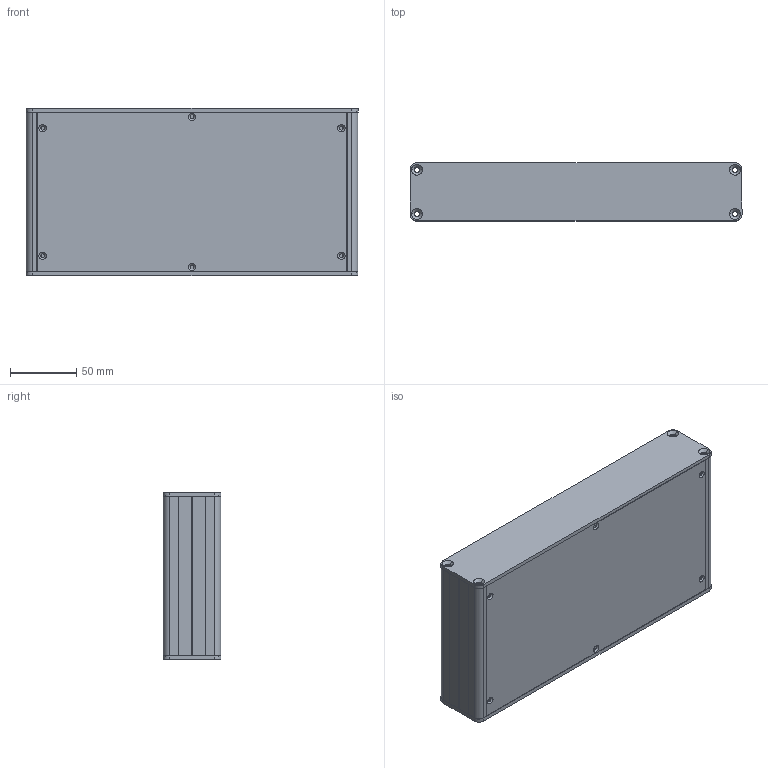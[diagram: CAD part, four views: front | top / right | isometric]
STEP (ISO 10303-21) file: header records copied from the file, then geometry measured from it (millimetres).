
FILE_DESCRIPTION (( 'STEP AP203' ), '1' );
FILE_NAME ('MM-255-12.STEP', '2021-06-24T08:56:01', ( '' ), ( '' ), 'SwSTEP 2.0', 'SolidWorks 2021', '' );
FILE_SCHEMA (( 'CONFIG_CONTROL_DESIGN' ));
Length unit declared in the file: millimetre
Products named in the file (4): 3U_panel; MM-255-12; AP-210_12 cm; Panel_12 cm
Assembly tree (6 placements, depth 2):
  MM-255-12
    3U_panel  x2
    AP-210_12 cm  x2
    Panel_12 cm  x2
Bounding box: 250 x 43.65 x 126 mm (x, y, z)
Volume: 217533.9 mm3; surface area: 243114.7 mm2
Topology: 6 solids, 6 shells, 702 faces, 2046 edges, 1356 vertices
Faces by surface type: plane 522, cylinder 140, cone 40
Entity records: 12083 total; most frequent: CARTESIAN_POINT 2101, ORIENTED_EDGE 2046, DIRECTION 1903, EDGE_CURVE 1023, VECTOR 847, LINE 847, VERTEX_POINT 678, AXIS2_PLACEMENT_3D 528
